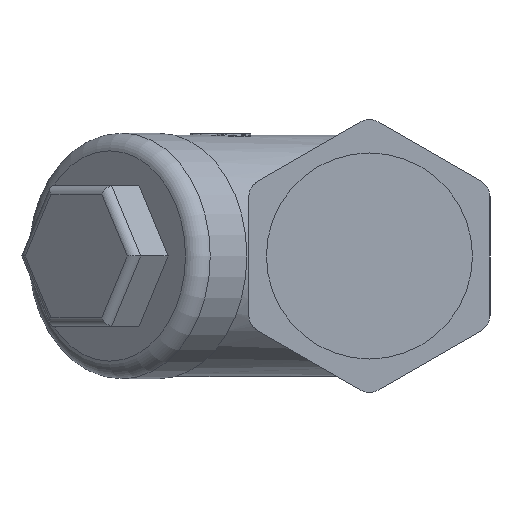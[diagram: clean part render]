
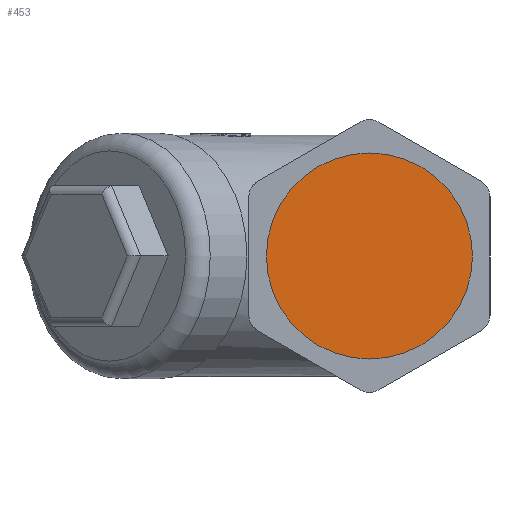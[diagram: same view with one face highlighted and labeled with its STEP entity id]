
A CAD part, left-side view. The second image highlights one B-rep face of the part: STEP entity #453.
In plain terms, the highlighted planar face has unit normal (-1, 0, 0).
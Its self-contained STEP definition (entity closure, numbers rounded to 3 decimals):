
#453=ADVANCED_FACE('',(#8313),#8315,.F.);
#8313=FACE_BOUND('',#8314,.T.);
#8314=EDGE_LOOP('',(#15192));
#8315=PLANE('',#8316);
#8316=AXIS2_PLACEMENT_3D('',#8317,#8318,#8319);
#8317=CARTESIAN_POINT('',(1235.109,156.095,0.));
#8318=DIRECTION('',(1.,0.,0.));
#8319=DIRECTION('',(0.,0.,-1.));
#15192=ORIENTED_EDGE('',*,*,#20250,.T.);
#20250=EDGE_CURVE('',#23719,#23719,#23720,.T.);
#23719=VERTEX_POINT('',#31108);
#23720=CIRCLE('',#31109,23.5);
#31108=CARTESIAN_POINT('',(1235.109,132.595,0.));
#31109=AXIS2_PLACEMENT_3D('',#31110,#31111,#31112);
#31110=CARTESIAN_POINT('',(1235.109,156.095,0.));
#31111=DIRECTION('',(-1.,0.,0.));
#31112=DIRECTION('',(0.,-1.,0.));
